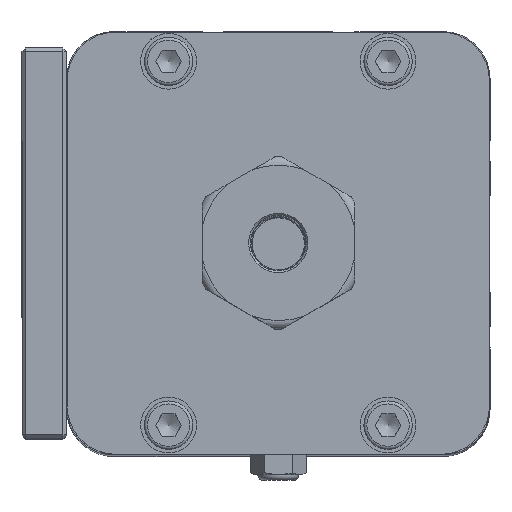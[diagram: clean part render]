
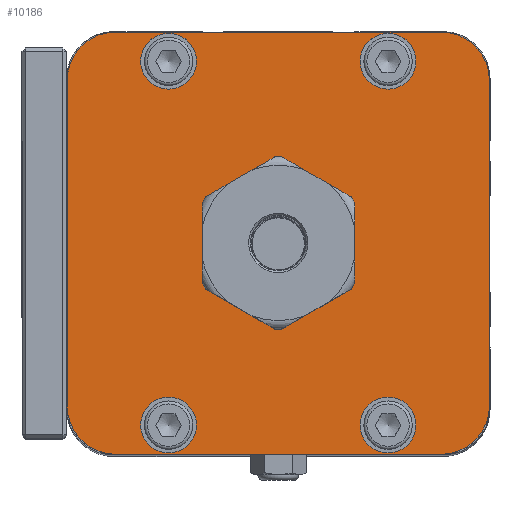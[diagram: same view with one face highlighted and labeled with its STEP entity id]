
A CAD part, top view. The second image highlights one B-rep face of the part: STEP entity #10186.
In plain terms, the highlighted planar face has unit normal (0, 0, 1) as drawn and (0, 0, -1) by its records, which use the part's own axes.
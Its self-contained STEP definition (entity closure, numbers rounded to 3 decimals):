
#594=FACE_BOUND('',#1759,.T.);
#595=FACE_BOUND('',#1760,.T.);
#596=FACE_BOUND('',#1761,.T.);
#597=FACE_BOUND('',#1762,.T.);
#598=FACE_BOUND('',#1763,.T.);
#752=PLANE('',#11268);
#1118=FACE_OUTER_BOUND('',#1758,.T.);
#1758=EDGE_LOOP('',(#8105,#8106,#8107,#8108,#8109,#8110,#8111,#8112));
#1759=EDGE_LOOP('',(#8113));
#1760=EDGE_LOOP('',(#8114));
#1761=EDGE_LOOP('',(#8115));
#1762=EDGE_LOOP('',(#8116));
#1763=EDGE_LOOP('',(#8117));
#2520=LINE('',#16897,#3260);
#2524=LINE('',#16909,#3264);
#2528=LINE('',#16921,#3268);
#2532=LINE('',#16932,#3272);
#3260=VECTOR('',#13349,10.);
#3264=VECTOR('',#13361,10.);
#3268=VECTOR('',#13373,10.);
#3272=VECTOR('',#13385,10.);
#3917=CIRCLE('',#11213,20.);
#3924=CIRCLE('',#11226,7.5);
#3928=CIRCLE('',#11233,7.5);
#3932=CIRCLE('',#11240,7.5);
#3936=CIRCLE('',#11247,7.5);
#3938=CIRCLE('',#11252,13.);
#3940=CIRCLE('',#11256,13.);
#3942=CIRCLE('',#11260,13.);
#3944=CIRCLE('',#11264,13.);
#4750=VERTEX_POINT('',#16814);
#4757=VERTEX_POINT('',#16837);
#4761=VERTEX_POINT('',#16850);
#4765=VERTEX_POINT('',#16863);
#4769=VERTEX_POINT('',#16876);
#4772=VERTEX_POINT('',#16887);
#4773=VERTEX_POINT('',#16888);
#4776=VERTEX_POINT('',#16896);
#4778=VERTEX_POINT('',#16902);
#4780=VERTEX_POINT('',#16908);
#4782=VERTEX_POINT('',#16914);
#4784=VERTEX_POINT('',#16920);
#4786=VERTEX_POINT('',#16926);
#5921=EDGE_CURVE('',#4750,#4750,#3917,.T.);
#5930=EDGE_CURVE('',#4757,#4757,#3924,.T.);
#5936=EDGE_CURVE('',#4761,#4761,#3928,.T.);
#5942=EDGE_CURVE('',#4765,#4765,#3932,.T.);
#5948=EDGE_CURVE('',#4769,#4769,#3936,.T.);
#5953=EDGE_CURVE('',#4772,#4773,#3938,.T.);
#5957=EDGE_CURVE('',#4776,#4772,#2520,.T.);
#5960=EDGE_CURVE('',#4778,#4776,#3940,.T.);
#5963=EDGE_CURVE('',#4780,#4778,#2524,.T.);
#5966=EDGE_CURVE('',#4782,#4780,#3942,.T.);
#5969=EDGE_CURVE('',#4784,#4782,#2528,.T.);
#5972=EDGE_CURVE('',#4786,#4784,#3944,.T.);
#5975=EDGE_CURVE('',#4773,#4786,#2532,.T.);
#8105=ORIENTED_EDGE('',*,*,#5975,.F.);
#8106=ORIENTED_EDGE('',*,*,#5953,.F.);
#8107=ORIENTED_EDGE('',*,*,#5957,.F.);
#8108=ORIENTED_EDGE('',*,*,#5960,.F.);
#8109=ORIENTED_EDGE('',*,*,#5963,.F.);
#8110=ORIENTED_EDGE('',*,*,#5966,.F.);
#8111=ORIENTED_EDGE('',*,*,#5969,.F.);
#8112=ORIENTED_EDGE('',*,*,#5972,.F.);
#8113=ORIENTED_EDGE('',*,*,#5921,.T.);
#8114=ORIENTED_EDGE('',*,*,#5930,.T.);
#8115=ORIENTED_EDGE('',*,*,#5936,.T.);
#8116=ORIENTED_EDGE('',*,*,#5942,.T.);
#8117=ORIENTED_EDGE('',*,*,#5948,.T.);
#10186=ADVANCED_FACE('',(#1118,#594,#595,#596,#597,#598),#752,.F.);
#11213=AXIS2_PLACEMENT_3D('',#16816,#13252,#13253);
#11226=AXIS2_PLACEMENT_3D('',#16838,#13280,#13281);
#11233=AXIS2_PLACEMENT_3D('',#16851,#13296,#13297);
#11240=AXIS2_PLACEMENT_3D('',#16864,#13312,#13313);
#11247=AXIS2_PLACEMENT_3D('',#16877,#13328,#13329);
#11252=AXIS2_PLACEMENT_3D('',#16889,#13341,#13342);
#11256=AXIS2_PLACEMENT_3D('',#16903,#13354,#13355);
#11260=AXIS2_PLACEMENT_3D('',#16915,#13366,#13367);
#11264=AXIS2_PLACEMENT_3D('',#16927,#13378,#13379);
#11268=AXIS2_PLACEMENT_3D('',#16935,#13389,#13390);
#13252=DIRECTION('center_axis',(0.,0.,1.));
#13253=DIRECTION('ref_axis',(0.,1.,0.));
#13280=DIRECTION('center_axis',(0.,0.,1.));
#13281=DIRECTION('ref_axis',(-1.,0.,0.));
#13296=DIRECTION('center_axis',(0.,0.,1.));
#13297=DIRECTION('ref_axis',(-1.,0.,0.));
#13312=DIRECTION('center_axis',(0.,0.,1.));
#13313=DIRECTION('ref_axis',(-1.,0.,0.));
#13328=DIRECTION('center_axis',(0.,0.,1.));
#13329=DIRECTION('ref_axis',(-1.,0.,0.));
#13341=DIRECTION('center_axis',(0.,0.,1.));
#13342=DIRECTION('ref_axis',(-1.,0.,0.));
#13349=DIRECTION('',(0.,-1.,0.));
#13354=DIRECTION('center_axis',(0.,0.,1.));
#13355=DIRECTION('ref_axis',(0.,1.,0.));
#13361=DIRECTION('',(-1.,0.,0.));
#13366=DIRECTION('center_axis',(0.,0.,1.));
#13367=DIRECTION('ref_axis',(1.,0.,0.));
#13373=DIRECTION('',(0.,1.,0.));
#13378=DIRECTION('center_axis',(0.,0.,1.));
#13379=DIRECTION('ref_axis',(0.,-1.,0.));
#13385=DIRECTION('',(1.,0.,0.));
#13389=DIRECTION('center_axis',(0.,0.,1.));
#13390=DIRECTION('ref_axis',(1.,0.,0.));
#16814=CARTESIAN_POINT('',(0.,-20.,0.));
#16816=CARTESIAN_POINT('Origin',(0.,0.,0.));
#16837=CARTESIAN_POINT('',(37.,48.9,0.));
#16838=CARTESIAN_POINT('Origin',(29.5,48.9,0.));
#16850=CARTESIAN_POINT('',(-22.,-48.9,0.));
#16851=CARTESIAN_POINT('Origin',(-29.5,-48.9,0.));
#16863=CARTESIAN_POINT('',(37.,-48.9,0.));
#16864=CARTESIAN_POINT('Origin',(29.5,-48.9,0.));
#16876=CARTESIAN_POINT('',(-22.,48.9,0.));
#16877=CARTESIAN_POINT('Origin',(-29.5,48.9,0.));
#16887=CARTESIAN_POINT('',(-56.75,-43.75,0.));
#16888=CARTESIAN_POINT('',(-43.75,-56.75,0.));
#16889=CARTESIAN_POINT('Origin',(-43.75,-43.75,0.));
#16896=CARTESIAN_POINT('',(-56.75,43.75,0.));
#16897=CARTESIAN_POINT('',(-56.75,43.75,0.));
#16902=CARTESIAN_POINT('',(-43.75,56.75,0.));
#16903=CARTESIAN_POINT('Origin',(-43.75,43.75,0.));
#16908=CARTESIAN_POINT('',(43.75,56.75,0.));
#16909=CARTESIAN_POINT('',(43.75,56.75,0.));
#16914=CARTESIAN_POINT('',(56.75,43.75,0.));
#16915=CARTESIAN_POINT('Origin',(43.75,43.75,0.));
#16920=CARTESIAN_POINT('',(56.75,-43.75,0.));
#16921=CARTESIAN_POINT('',(56.75,-43.75,0.));
#16926=CARTESIAN_POINT('',(43.75,-56.75,0.));
#16927=CARTESIAN_POINT('Origin',(43.75,-43.75,0.));
#16932=CARTESIAN_POINT('',(-43.75,-56.75,0.));
#16935=CARTESIAN_POINT('Origin',(0.,0.,0.));
